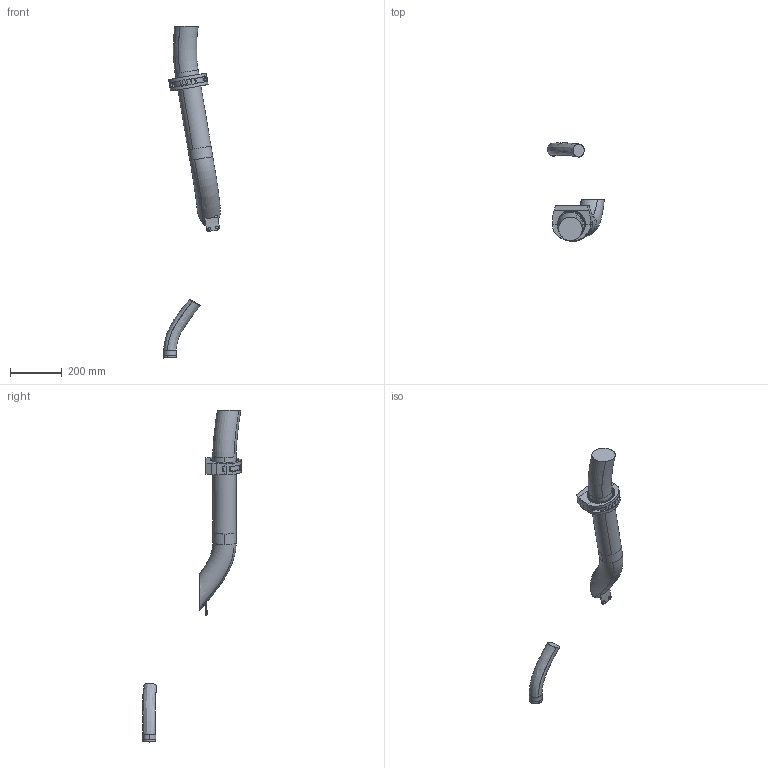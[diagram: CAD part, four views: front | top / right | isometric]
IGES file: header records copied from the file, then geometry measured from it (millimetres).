
Start section: SolidWorks IGES file using analytic representation for surfaces
Global section: file name: C:\Users\SEJAOLS6\OneDrive - ABB\Documents\SAP\7710\7710_Lightweight_models\IRB7710-LID-SW_400kg-285_OC_01_SW_J\IRB7710-LID-SW_400kg-285_OC_01_IGES_J\IRB77X0_All_OC_00_LINK02_CABLE.igs; native system: SolidWorks 2024; preprocessor: SolidWorks 2024; author: SEJAOLS6; date: 260127.071823; units: millimetre
Bounding box: 220.22 x 383.39 x 1285.35 mm (x, y, z)
Surface area: 313943.4 mm2 (no closed solid volume)
Topology: 0 solids, 0 shells, 152 faces, 2896 edges, 2896 vertices
Faces by surface type: bspline 97, revolution 55
